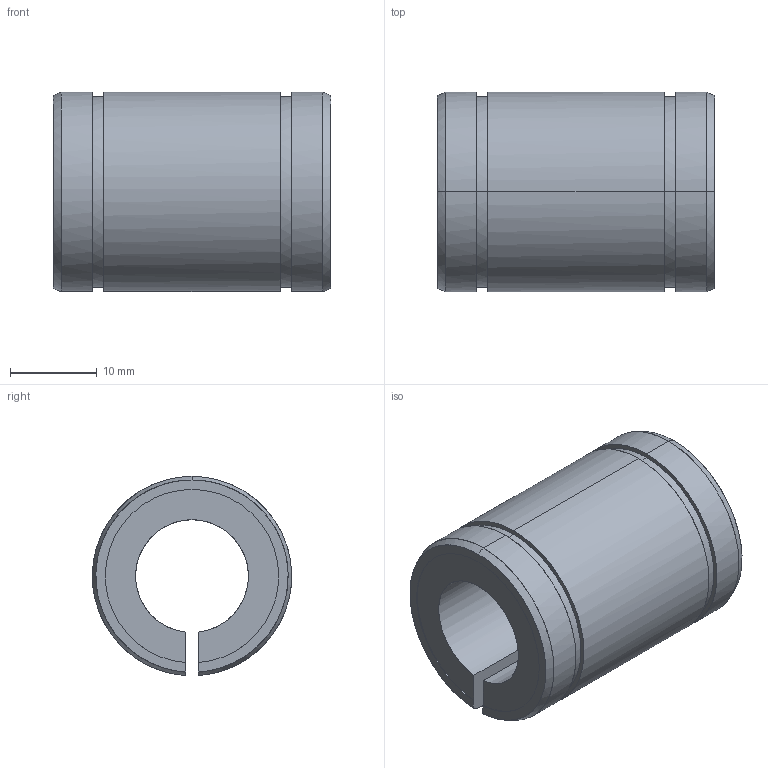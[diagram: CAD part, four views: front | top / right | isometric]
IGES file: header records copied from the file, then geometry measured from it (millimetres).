
Global section: file name: No Iges File Name specified; native system: AutoDesk Inventor R10; preprocessor: AutoDesk Inventor Iges Exporter R10; author: No Author specified; organization: No Organization specified; date: 20101208.095855; units: millimetre
Bounding box: 32 x 22.99 x 22.98 mm (x, y, z)
Surface area: 4478.6 mm2 (no closed solid volume)
Topology: 0 solids, 0 shells, 30 faces, 252 edges, 252 vertices
Faces by surface type: bspline 30
